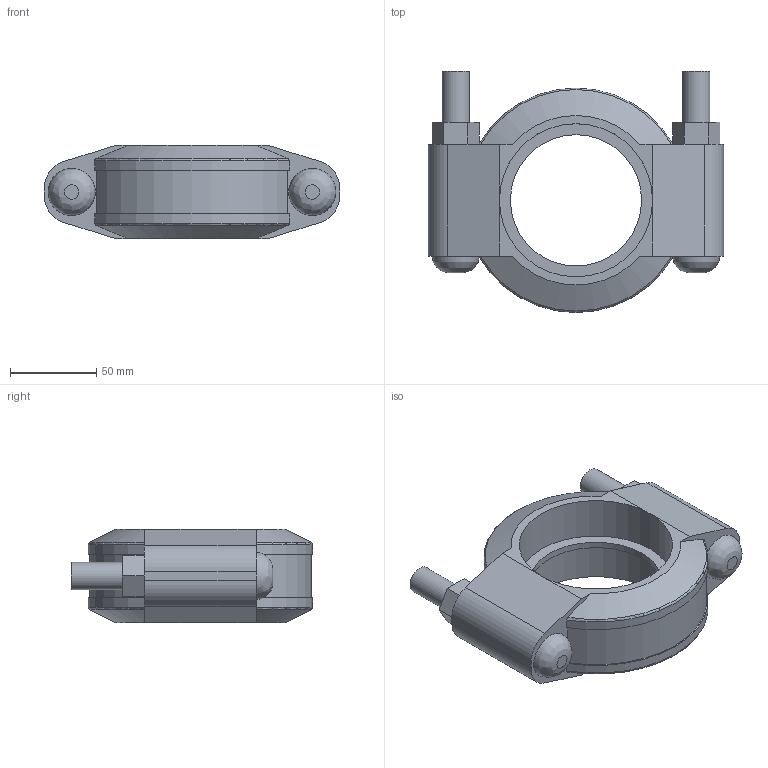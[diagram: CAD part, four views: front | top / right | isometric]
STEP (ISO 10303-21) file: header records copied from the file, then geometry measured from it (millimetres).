
FILE_DESCRIPTION(/* description */ ('VIC CPLG RGD IR STYLE HP-170 (ESG)'),/* implementation_level */ '2;1');
FILE_NAME(/* name */ 'C:\Files for Export\HP-170\STEP\Victaulic_IPS-EndSeal_Cplg Rgd_IR_Style HP-170 (ESG)\Victaulic_IPS-EndSeal_Cplg Rgd_IR_Style HP-170 (ESG)_3 (80).stp',/* time_stamp */ '2023-12-19T11:33:22+01:00',/* author */ ('CONSTRUCTION PIPING SERVICES'),/* organization */ ('Victaulic'),/* preprocessor_version */ 'ST-DEVELOPER v18.1',/* originating_system */ 'Autodesk Inventor 2020',/* authorisation */ '');
FILE_SCHEMA (('AUTOMOTIVE_DESIGN { 1 0 10303 214 3 1 1 }'));
Length unit declared in the file: inch
Products named in the file (1): HP-170-03.0
Bounding box: 171.45 x 140 x 54.1 mm (x, y, z)
Volume: 461370.4 mm3; surface area: 79328.2 mm2
Topology: 1 solids, 3 shells, 77 faces, 195 edges, 130 vertices
Faces by surface type: plane 46, cylinder 21, torus 4, cone 4, bspline 2
Full cylindrical faces by diameter (mm): 15.875 x4, 76.2 x1, 88.9 x2
Entity records: 2555 total; most frequent: CARTESIAN_POINT 527, DIRECTION 395, ORIENTED_EDGE 390, EDGE_CURVE 195, AXIS2_PLACEMENT_3D 140, VERTEX_POINT 130, LINE 115, VECTOR 115
